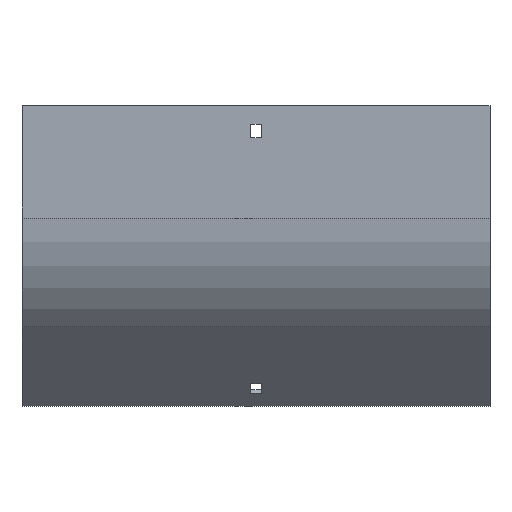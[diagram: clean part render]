
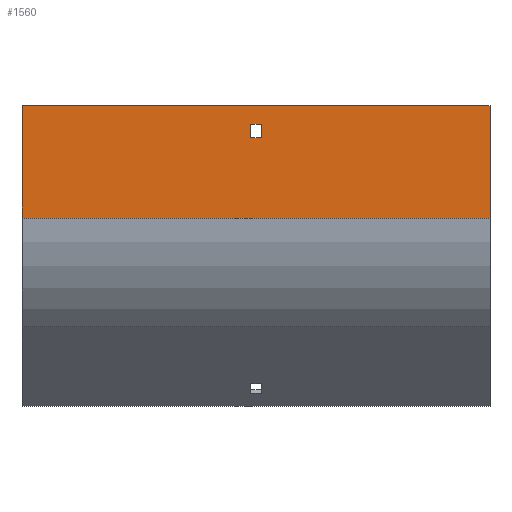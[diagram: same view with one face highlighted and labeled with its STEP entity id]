
A CAD part, front view. The second image highlights one B-rep face of the part: STEP entity #1560.
In plain terms, the highlighted planar face has unit normal (0, -1, 0).
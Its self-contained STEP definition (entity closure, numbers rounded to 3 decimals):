
#12 = EDGE_CURVE ( 'NONE', #1474, #789, #59, .T. ) ;
#59 = LINE ( 'NONE', #1575, #1089 ) ;
#77 = EDGE_LOOP ( 'NONE', ( #1062, #1202, #1738, #1303 ) ) ;
#79 = VECTOR ( 'NONE', #259, 1000. ) ;
#166 = CARTESIAN_POINT ( 'NONE',  ( -3.25, -104., -12. ) ) ;
#181 = CARTESIAN_POINT ( 'NONE',  ( -3.25, -104., -12. ) ) ;
#214 = DIRECTION ( 'NONE',  ( 0., 1., 0. ) ) ;
#250 = CARTESIAN_POINT ( 'NONE',  ( -152., -104., 0. ) ) ;
#259 = DIRECTION ( 'NONE',  ( 0., 0., -1. ) ) ;
#313 = ORIENTED_EDGE ( 'NONE', *, *, #12, .T. ) ;
#348 = PLANE ( 'NONE',  #687 ) ;
#471 = EDGE_CURVE ( 'NONE', #1474, #1872, #1879, .T. ) ;
#484 = EDGE_CURVE ( 'NONE', #1543, #1929, #843, .T. ) ;
#494 = DIRECTION ( 'NONE',  ( -1., 0., 0. ) ) ;
#606 = VECTOR ( 'NONE', #1104, 1000. ) ;
#628 = CARTESIAN_POINT ( 'NONE',  ( 152., -104., -73.078 ) ) ;
#669 = LINE ( 'NONE', #1086, #1109 ) ;
#687 = AXIS2_PLACEMENT_3D ( 'NONE', #628, #214, #1386 ) ;
#704 = CARTESIAN_POINT ( 'NONE',  ( 152., -104., -73.078 ) ) ;
#713 = EDGE_CURVE ( 'NONE', #1134, #1680, #841, .T. ) ;
#729 = ORIENTED_EDGE ( 'NONE', *, *, #471, .F. ) ;
#788 = FACE_BOUND ( 'NONE', #77, .T. ) ;
#789 = VERTEX_POINT ( 'NONE', #250 ) ;
#810 = CARTESIAN_POINT ( 'NONE',  ( -3.25, -104., -21. ) ) ;
#828 = DIRECTION ( 'NONE',  ( -1., 0., 0. ) ) ;
#841 = LINE ( 'NONE', #1727, #1651 ) ;
#843 = LINE ( 'NONE', #1437, #1496 ) ;
#870 = DIRECTION ( 'NONE',  ( 0., 0., 1. ) ) ;
#904 = VECTOR ( 'NONE', #494, 1000. ) ;
#991 = CARTESIAN_POINT ( 'NONE',  ( -152., -104., -73.078 ) ) ;
#1037 = LINE ( 'NONE', #1358, #1657 ) ;
#1045 = DIRECTION ( 'NONE',  ( -1., 0., 0. ) ) ;
#1062 = ORIENTED_EDGE ( 'NONE', *, *, #1419, .T. ) ;
#1086 = CARTESIAN_POINT ( 'NONE',  ( -152., -104., -73.078 ) ) ;
#1089 = VECTOR ( 'NONE', #828, 1000. ) ;
#1104 = DIRECTION ( 'NONE',  ( 1., 0., 0. ) ) ;
#1109 = VECTOR ( 'NONE', #1814, 1000. ) ;
#1117 = EDGE_CURVE ( 'NONE', #1872, #1603, #1397, .T. ) ;
#1134 = VERTEX_POINT ( 'NONE', #1249 ) ;
#1189 = CARTESIAN_POINT ( 'NONE',  ( 152., -104., 0. ) ) ;
#1202 = ORIENTED_EDGE ( 'NONE', *, *, #484, .T. ) ;
#1249 = CARTESIAN_POINT ( 'NONE',  ( 3.25, -104., -12. ) ) ;
#1278 = CARTESIAN_POINT ( 'NONE',  ( 3.25, -104., -21. ) ) ;
#1303 = ORIENTED_EDGE ( 'NONE', *, *, #713, .T. ) ;
#1358 = CARTESIAN_POINT ( 'NONE',  ( -3.25, -104., -21. ) ) ;
#1383 = LINE ( 'NONE', #166, #606 ) ;
#1386 = DIRECTION ( 'NONE',  ( 0., 0., 1. ) ) ;
#1397 = LINE ( 'NONE', #1859, #904 ) ;
#1419 = EDGE_CURVE ( 'NONE', #1680, #1543, #1037, .T. ) ;
#1437 = CARTESIAN_POINT ( 'NONE',  ( -3.25, -104., -21. ) ) ;
#1474 = VERTEX_POINT ( 'NONE', #1189 ) ;
#1496 = VECTOR ( 'NONE', #870, 1000. ) ;
#1499 = ORIENTED_EDGE ( 'NONE', *, *, #1950, .T. ) ;
#1543 = VERTEX_POINT ( 'NONE', #810 ) ;
#1560 = ADVANCED_FACE ( 'NONE', ( #788, #1563 ), #348, .F. ) ;
#1563 = FACE_OUTER_BOUND ( 'NONE', #1711, .T. ) ;
#1567 = DIRECTION ( 'NONE',  ( 0., 0., -1. ) ) ;
#1575 = CARTESIAN_POINT ( 'NONE',  ( 152., -104., 0. ) ) ;
#1603 = VERTEX_POINT ( 'NONE', #991 ) ;
#1651 = VECTOR ( 'NONE', #1567, 1000. ) ;
#1657 = VECTOR ( 'NONE', #1045, 1000. ) ;
#1666 = CARTESIAN_POINT ( 'NONE',  ( 152., -104., -73.078 ) ) ;
#1680 = VERTEX_POINT ( 'NONE', #1278 ) ;
#1711 = EDGE_LOOP ( 'NONE', ( #1499, #1800, #729, #313 ) ) ;
#1727 = CARTESIAN_POINT ( 'NONE',  ( 3.25, -104., -21. ) ) ;
#1738 = ORIENTED_EDGE ( 'NONE', *, *, #1919, .T. ) ;
#1800 = ORIENTED_EDGE ( 'NONE', *, *, #1117, .F. ) ;
#1814 = DIRECTION ( 'NONE',  ( 0., 0., -1. ) ) ;
#1859 = CARTESIAN_POINT ( 'NONE',  ( 152., -104., -73.078 ) ) ;
#1872 = VERTEX_POINT ( 'NONE', #1666 ) ;
#1879 = LINE ( 'NONE', #704, #79 ) ;
#1919 = EDGE_CURVE ( 'NONE', #1929, #1134, #1383, .T. ) ;
#1929 = VERTEX_POINT ( 'NONE', #181 ) ;
#1950 = EDGE_CURVE ( 'NONE', #789, #1603, #669, .T. ) ;
